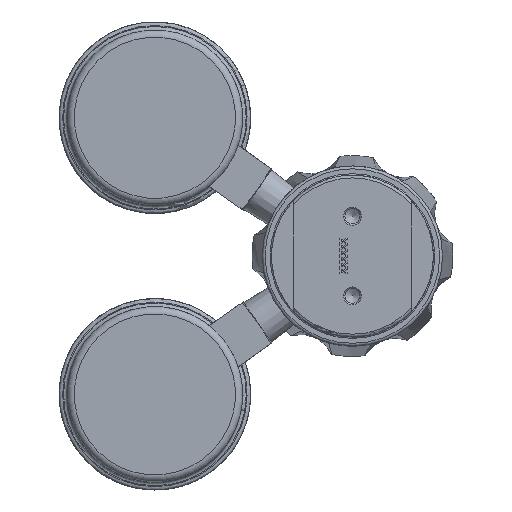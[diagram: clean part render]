
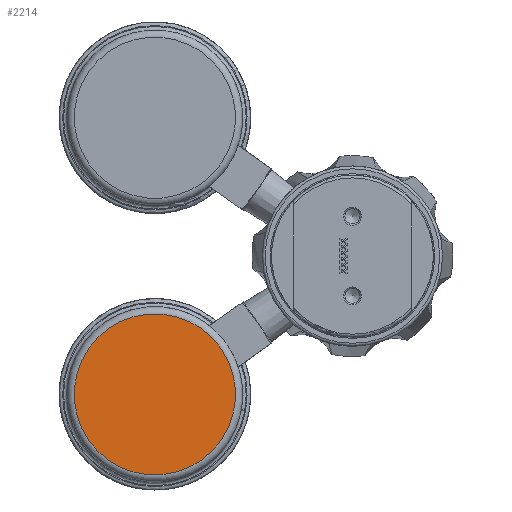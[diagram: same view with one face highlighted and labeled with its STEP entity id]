
A CAD part, left-side view. The second image highlights one B-rep face of the part: STEP entity #2214.
In plain terms, the highlighted planar face has unit normal (-1, 0, 0) as drawn and (0, 0, -1) by its records, which use the part's own axes.
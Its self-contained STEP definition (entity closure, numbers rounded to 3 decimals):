
#1426=FACE_OUTER_BOUND('',#5283,.T.);
#2214=ADVANCED_FACE('',(#1426),#2704,.T.);
#2704=PLANE('',#13012);
#2966=CIRCLE('',#13010,22.5);
#2967=CIRCLE('',#13011,22.5);
#5283=EDGE_LOOP('',(#8256,#8257));
#8256=ORIENTED_EDGE('',*,*,#11248,.F.);
#8257=ORIENTED_EDGE('',*,*,#11249,.F.);
#9689=VERTEX_POINT('',#24721);
#9690=VERTEX_POINT('',#24722);
#11248=EDGE_CURVE('',#9689,#9690,#2966,.T.);
#11249=EDGE_CURVE('',#9690,#9689,#2967,.T.);
#13010=AXIS2_PLACEMENT_3D('',#24720,#15153,#15154);
#13011=AXIS2_PLACEMENT_3D('',#24723,#15155,#15156);
#13012=AXIS2_PLACEMENT_3D('',#24724,#15157,#15158);
#15153=DIRECTION('',(0.,0.,1.));
#15154=DIRECTION('',(-1.,0.,0.));
#15155=DIRECTION('',(0.,0.,1.));
#15156=DIRECTION('',(1.,0.,0.));
#15157=DIRECTION('',(0.,0.,-1.));
#15158=DIRECTION('',(-1.,0.,0.));
#24720=CARTESIAN_POINT('',(0.,0.,
-11.75));
#24721=CARTESIAN_POINT('',(-22.5,0.,-11.75));
#24722=CARTESIAN_POINT('',(22.5,0.,-11.75));
#24723=CARTESIAN_POINT('',(0.,0.,
-11.75));
#24724=CARTESIAN_POINT('',(229.5,-229.5,-11.75));
